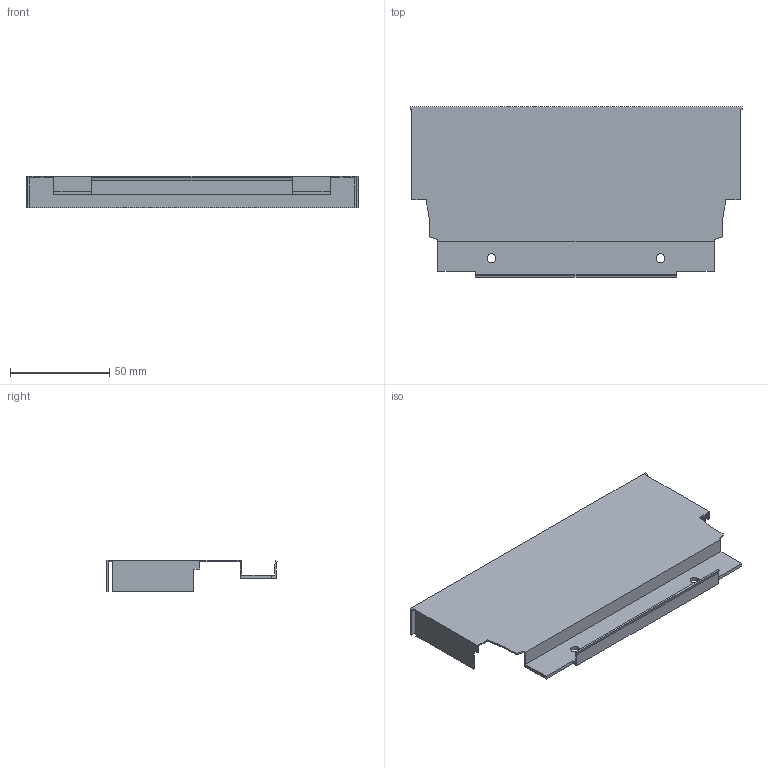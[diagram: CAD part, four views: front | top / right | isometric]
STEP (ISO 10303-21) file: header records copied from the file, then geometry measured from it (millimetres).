
FILE_DESCRIPTION (( 'STEP AP214' ), '1' );
FILE_NAME ('_DWD_XP Stahlrückwand_H86_KAB250_S17.step', '2010-07-08T12:10:03', ( 'grass' ), ( '' ), 'SwSTEP 2.0', 'SolidWorks 2010', '' );
FILE_SCHEMA (( 'AUTOMOTIVE_DESIGN' ));
Length unit declared in the file: millimetre
Products named in the file (1): _DWD_XP Stahlrückwand_H86_KAB250_S17
Bounding box: 167 x 85.79 x 16 mm (x, y, z)
Volume: 17100 mm3; surface area: 38199.2 mm2
Topology: 1 solids, 1 shells, 48 faces, 138 edges, 92 vertices
Faces by surface type: plane 44, cylinder 4
Entity records: 1592 total; most frequent: CARTESIAN_POINT 279, ORIENTED_EDGE 276, DIRECTION 244, EDGE_CURVE 138, LINE 130, VECTOR 130, VERTEX_POINT 92, AXIS2_PLACEMENT_3D 57
